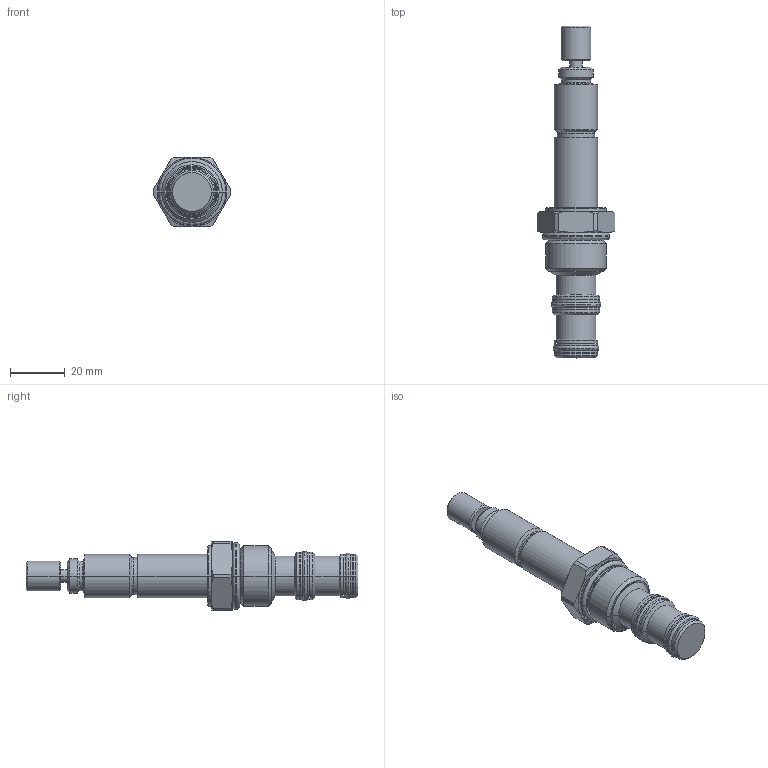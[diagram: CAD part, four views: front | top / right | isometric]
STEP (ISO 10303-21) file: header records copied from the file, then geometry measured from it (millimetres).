
FILE_DESCRIPTION((''),'2;1');
FILE_NAME('5026100_SW0002','2009-03-02T',('JCS'),(''),'PRO/ENGINEER BY PARAMETRIC TECHNOLOGY CORPORATION, 2008010','PRO/ENGINEER BY PARAMETRIC TECHNOLOGY CORPORATION, 2008010','');
FILE_SCHEMA(('CONFIG_CONTROL_DESIGN'));
Length unit declared in the file: inch
Products named in the file (1): 5026100_SW0002
Bounding box: 28.57 x 121.71 x 25.4 mm (x, y, z)
Volume: 27082.5 mm3; surface area: 9735.4 mm2
Topology: 4 solids, 4 shells, 197 faces, 414 edges, 240 vertices
Faces by surface type: cylinder 62, cone 52, plane 33, revolution 32, torus 18
Entity records: 5792 total; most frequent: CARTESIAN_POINT 1477, DIRECTION 952, ORIENTED_EDGE 828, EDGE_CURVE 414, AXIS2_PLACEMENT_3D 401, VERTEX_POINT 240, CIRCLE 236, EDGE_LOOP 218
